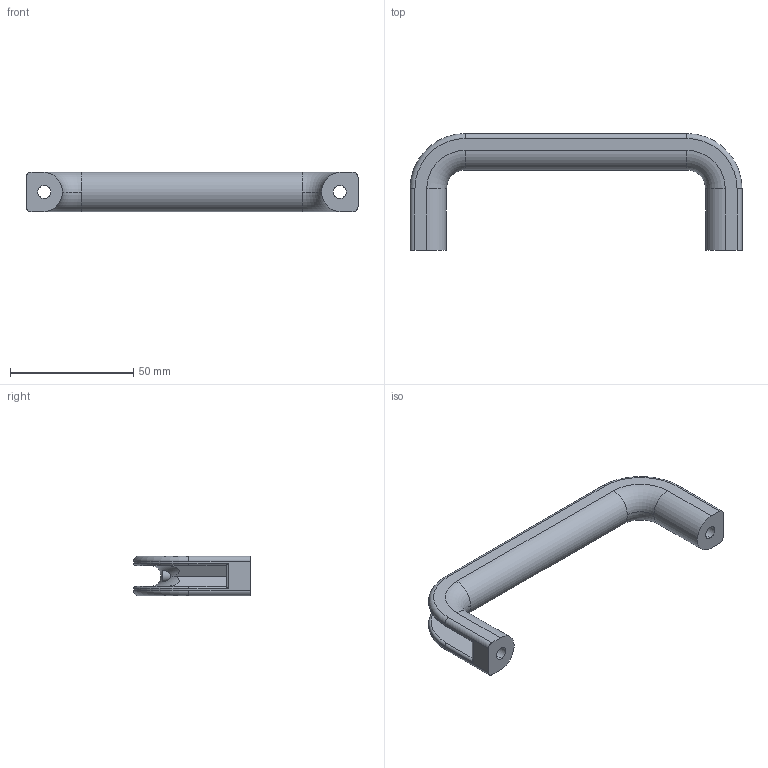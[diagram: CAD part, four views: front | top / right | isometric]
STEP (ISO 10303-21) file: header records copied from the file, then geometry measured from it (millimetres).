
FILE_DESCRIPTION (( 'STEP AP203' ), '1' );
FILE_NAME ('092012.STEP', '2012-11-05T10:10:38', ( '' ), ( '' ), 'SwSTEP 2.0', 'SolidWorks 2012', '' );
FILE_SCHEMA (( 'CONFIG_CONTROL_DESIGN' ));
Length unit declared in the file: millimetre
Products named in the file (1): 092012
Bounding box: 134.8 x 47.4 x 16 mm (x, y, z)
Volume: 23126.4 mm3; surface area: 13947.2 mm2
Topology: 1 solids, 1 shells, 70 faces, 182 edges, 114 vertices
Faces by surface type: cylinder 30, plane 24, torus 16
Entity records: 2435 total; most frequent: CARTESIAN_POINT 607, DIRECTION 384, ORIENTED_EDGE 364, EDGE_CURVE 182, AXIS2_PLACEMENT_3D 147, VERTEX_POINT 114, LINE 90, VECTOR 90
